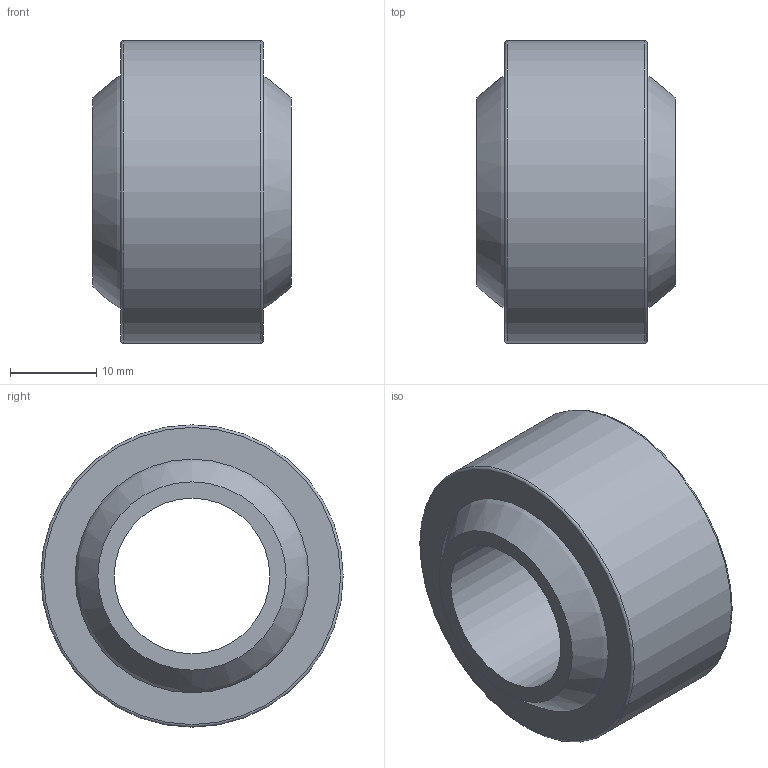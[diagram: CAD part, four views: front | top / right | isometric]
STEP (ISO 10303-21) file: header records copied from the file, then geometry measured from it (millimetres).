
FILE_DESCRIPTION( ( 'STEP AP203' ), '1' );
FILE_NAME( 'C:/Temp/Ganter_Step_05_03_2020/data/3_6/gn_648_8/gn_648_8_w/Ball joint GN 648.8-18-35-W.stp', '2020-03-12T14:14:31', ( 'License CC BY-ND 4.0' ), ( 'CADENAS' ), ' ', 'PARTsolutions', ' ' );
FILE_SCHEMA( ( 'CONFIG_CONTROL_DESIGN' ) );
Length unit declared in the file: millimetre
Products named in the file (3): Ball joint GN 648.8-18-35-W; _Ball joint GN 648.8-18-35-W-2; _Ball joint GN 648.8-18-35-W-1
Assembly tree (2 placements, depth 2):
  Ball joint GN 648.8-18-35-W
    _Ball joint GN 648.8-18-35-W-2
    _Ball joint GN 648.8-18-35-W-1
Bounding box: 23 x 35 x 35 mm (x, y, z)
Volume: 13132.1 mm3; surface area: 8029.7 mm2
Topology: 2 solids, 2 shells, 10 faces, 16 edges, 10 vertices
Faces by surface type: plane 4, sphere 2, torus 2, cylinder 2
Full cylindrical faces by diameter (mm): 18 x1, 35 x1
Entity records: 320 total; most frequent: DIRECTION 46, CARTESIAN_POINT 33, AXIS2_PLACEMENT_3D 23, EDGE_LOOP 20, ORIENTED_EDGE 20, FACE_OUTER_BOUND 16, CC_DESIGN_PERSON_AND_ORGANIZATION_ASSIGNMENT 13, ADVANCED_FACE 10
